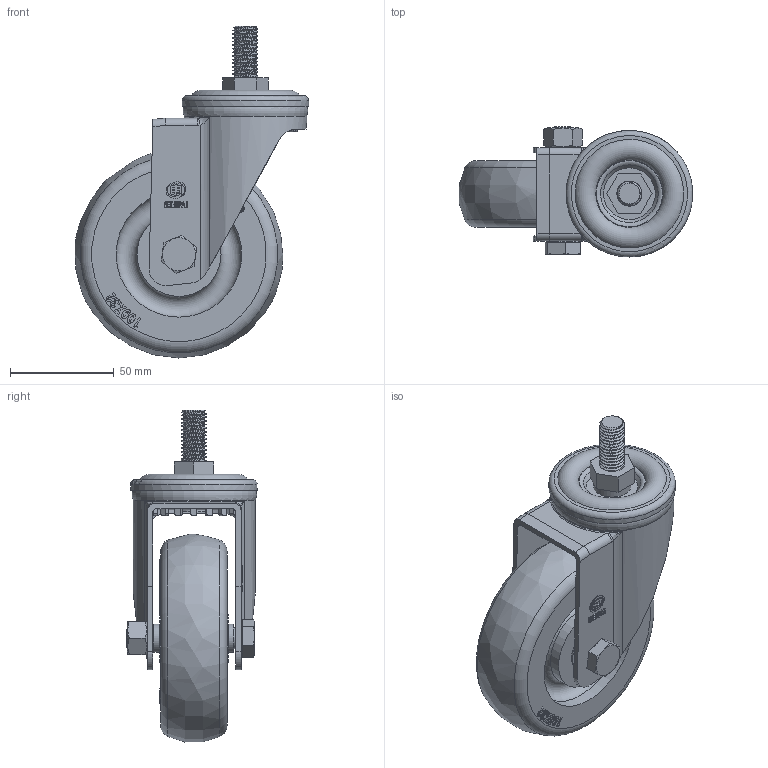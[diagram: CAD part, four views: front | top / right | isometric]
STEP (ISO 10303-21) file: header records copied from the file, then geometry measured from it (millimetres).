
FILE_DESCRIPTION(/* description */ (''),/* implementation_level */ '2;1');
FILE_NAME(/* name */ '20D15_4_F.stp',/* time_stamp */ '2022-10-17T12:48:01+08:00',/* author */ (''),/* organization */ (''),/* preprocessor_version */ 'ST-DEVELOPER v14',/* originating_system */ 'SIEMENS PLM Software NX 8.0',/* authorisation */ '');
FILE_SCHEMA (('AUTOMOTIVE_DESIGN { 1 0 10303 214 3 1 1 1 }'));
Length unit declared in the file: millimetre
Products named in the file (1): 20D15_4_F
Bounding box: 112.45 x 62.75 x 159.93 mm (x, y, z)
Volume: 265566.5 mm3; surface area: 72824.9 mm2
Topology: 1 solids, 1 shells, 817 faces, 2258 edges, 1500 vertices
Faces by surface type: plane 483, cylinder 165, torus 44, sphere 38, cone 36, bspline 27, extrusion 24
Full cylindrical faces by diameter (mm): 2.841 x1, 3.44 x1, 10 x2, 10.2 x2, 12 x1, 12.2 x1, 12.496 x1, 13.6 x2, 16 x1, 18 x1, 23 x2, 30.122 x1, 40.5 x2, 45.996 x1, 54 x1, 56 x1, 57.6 x1, 59 x1, 60.5 x2, 61 x1
Entity records: 33526 total; most frequent: CARTESIAN_POINT 14614, ORIENTED_EDGE 4108, DIRECTION 3428, EDGE_CURVE 2054, VERTEX_POINT 1398, AXIS2_PLACEMENT_3D 1189, VECTOR 1050, LINE 1026
